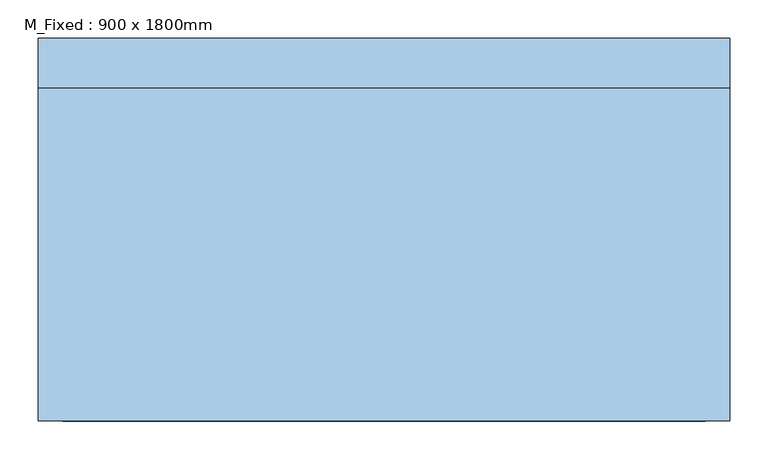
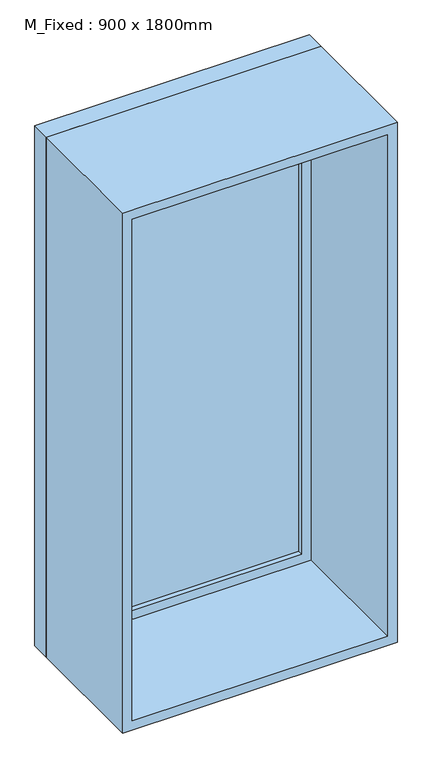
"""IFC4 building model written with IfcOpenShell, lengths in millimetres: window geometry, M_Fixed : 900 x 1800mm."""

from ifc_helpers import new_model, si_unit, frame, origin, place, context, project, spatial, polyline, outline, extrude, source, transform, mapped, element, save


def m_fixed_900_x_1800mm_11eb3af6(model_context):
    return source(origin(), model_context, "Body", "SweptSolid", [
        extrude(outline(polyline([(-387.0, 226.0), (387.0, 226.0), (387.0, 214.0), (-387.0, 214.0), (-387.0, 226.0)])), frame((0.0, 0.0, 363.0), z_axis=(0.0, 0.0, 1.0), x_axis=(1.0, 0.0, 0.0)), (0.0, 0.0, 1.0), 1674.0),
        extrude(outline(polyline([(2081.0, -431.0), (319.0, -431.0), (319.0, 431.0), (2081.0, 431.0), (2081.0, -431.0)]), holes=[polyline([(2037.0, -387.0), (2037.0, 387.0), (363.0, 387.0), (363.0, -387.0), (2037.0, -387.0)])]), frame((0.0, 198.0, 0.0), z_axis=(0.0, 1.0, 0.0), x_axis=(0.0, 0.0, 1.0)), (0.0, 0.0, 1.0), 44.0),
        extrude(outline(polyline([(2100.0, -450.0), (300.0, -450.0), (300.0, 450.0), (2100.0, 450.0), (2100.0, -450.0)]), holes=[polyline([(2081.0, -431.0), (2081.0, 431.0), (319.0, 431.0), (319.0, -431.0), (2081.0, -431.0)])]), frame((0.0, 198.0, 0.0), z_axis=(0.0, 1.0, 0.0), x_axis=(0.0, 0.0, 1.0)), (0.0, 0.0, 1.0), 64.0),
        extrude(outline(polyline([(2100.0, -450.0), (300.0, -450.0), (300.0, 450.0), (2100.0, 450.0), (2100.0, -450.0)]), holes=[polyline([(2068.0, -418.0), (2068.0, 418.0), (332.0, 418.0), (332.0, -418.0), (2068.0, -418.0)])]), frame((0.0, -236.0, 0.0), z_axis=(0.0, 1.0, 0.0), x_axis=(0.0, 0.0, 1.0)), (0.0, 0.0, 1.0), 434.0),
    ])


if __name__ == "__main__":
    model = new_model("IFC4")
    model_context = context("Model", 3, world=origin())
    ifc_project = project(units=[si_unit("LENGTHUNIT", "METRE", prefix="MILLI")], contexts=[model_context])
    site = spatial("IfcSite", under=ifc_project)
    building = spatial("IfcBuilding", under=site)
    placement = place(None, origin())
    m_fixed_900_x_1800mm_shape = m_fixed_900_x_1800mm_11eb3af6(model_context)
    element("IfcWindow", 1, ObjectType="M_Fixed : 900 x 1800mm", at=placement, inside=building, context=model_context, shape_type="MappedRepresentation", body=[
        mapped(m_fixed_900_x_1800mm_shape, transform((0.0, 0.0, 0.0), x_axis=(1.0, 0.0, 0.0), y_axis=(0.0, 1.0, 0.0), z_axis=(0.0, 0.0, 1.0))),
    ])
    save(model, "model.ifc")
